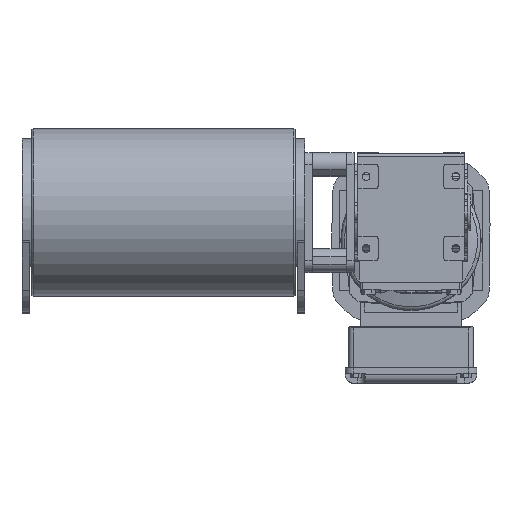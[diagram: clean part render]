
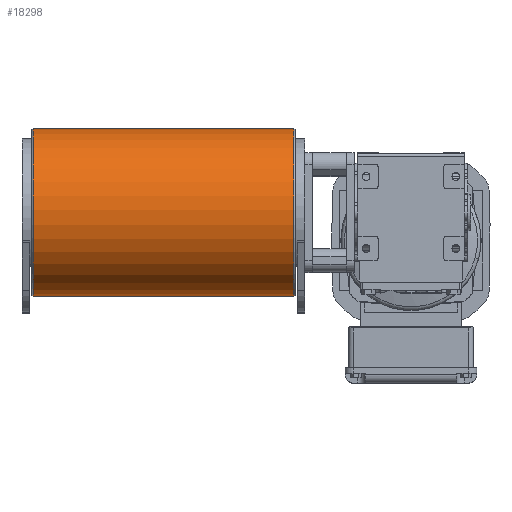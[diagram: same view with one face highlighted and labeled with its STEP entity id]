
A CAD part, top view. The second image highlights one B-rep face of the part: STEP entity #18298.
In plain terms, the highlighted cylindrical face has radius 70 mm (diameter 140 mm), a partial arc.
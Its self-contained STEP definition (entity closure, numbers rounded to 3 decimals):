
#935=CYLINDRICAL_SURFACE('',#19560,70.);
#1325=FACE_OUTER_BOUND('',#2320,.T.);
#2320=EDGE_LOOP('',(#12584,#12585,#12586,#12587));
#3453=CIRCLE('',#19558,70.);
#3455=CIRCLE('',#19561,70.);
#4429=LINE('',#27206,#6141);
#4437=LINE('',#27232,#6149);
#6141=VECTOR('',#21553,10.);
#6149=VECTOR('',#21581,10.);
#7855=VERTEX_POINT('',#27198);
#7857=VERTEX_POINT('',#27204);
#7863=VERTEX_POINT('',#27224);
#7865=VERTEX_POINT('',#27230);
#9741=EDGE_CURVE('',#7855,#7857,#4429,.T.);
#9750=EDGE_CURVE('',#7863,#7855,#3453,.T.);
#9753=EDGE_CURVE('',#7865,#7857,#3455,.T.);
#9754=EDGE_CURVE('',#7863,#7865,#4437,.T.);
#12584=ORIENTED_EDGE('',*,*,#9741,.T.);
#12585=ORIENTED_EDGE('',*,*,#9753,.F.);
#12586=ORIENTED_EDGE('',*,*,#9754,.F.);
#12587=ORIENTED_EDGE('',*,*,#9750,.T.);
#18298=ADVANCED_FACE('',(#1325),#935,.T.);
#19558=AXIS2_PLACEMENT_3D('',#27225,#21572,#21573);
#19560=AXIS2_PLACEMENT_3D('',#27229,#21577,#21578);
#19561=AXIS2_PLACEMENT_3D('',#27231,#21579,#21580);
#21553=DIRECTION('',(1.,0.,0.));
#21572=DIRECTION('center_axis',(1.,0.,0.));
#21573=DIRECTION('ref_axis',(0.,1.,0.));
#21577=DIRECTION('center_axis',(1.,0.,0.));
#21578=DIRECTION('ref_axis',(0.,-0.146,0.989));
#21579=DIRECTION('center_axis',(1.,0.,0.));
#21580=DIRECTION('ref_axis',(0.,1.,0.));
#21581=DIRECTION('',(1.,0.,0.));
#27198=CARTESIAN_POINT('',(-108.5,-137.033,419.837));
#27204=CARTESIAN_POINT('',(108.5,-137.033,419.837));
#27206=CARTESIAN_POINT('',(108.5,-137.033,419.837));
#27224=CARTESIAN_POINT('',(-108.5,0.,440.));
#27225=CARTESIAN_POINT('Origin',(-108.5,-70.,440.));
#27229=CARTESIAN_POINT('Origin',(0.,-70.,
440.));
#27230=CARTESIAN_POINT('',(108.5,0.,440.));
#27231=CARTESIAN_POINT('Origin',(108.5,-70.,440.));
#27232=CARTESIAN_POINT('',(108.5,0.,440.));
